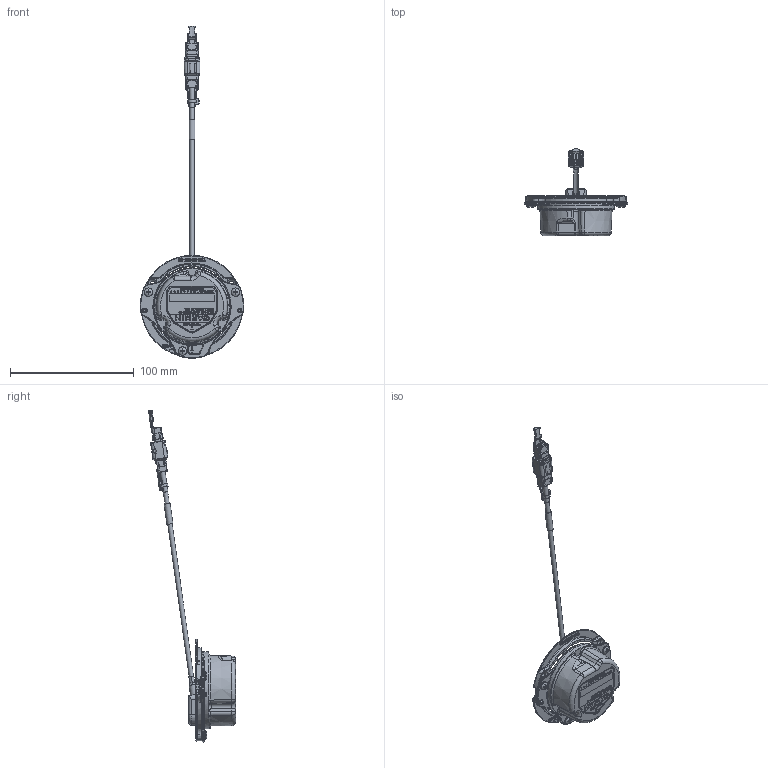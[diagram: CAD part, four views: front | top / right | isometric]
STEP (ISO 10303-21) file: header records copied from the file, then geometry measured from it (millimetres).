
FILE_DESCRIPTION (( 'STEP AP203' ), '1' );
FILE_NAME ('GMU44B_011-04201-00_R[125-00437-00]_C[011-04205-00]_below_rack_rev4.STEP', '2018-08-07T16:44:51', ( 'Garmin' ), ( 'Garmin' ), 'SwSTEP 2.0', 'SolidWorks 2016', '' );
FILE_SCHEMA (( 'CONFIG_CONTROL_DESIGN' ));
Length unit declared in the file: inch
Products named in the file (1): GMU44B_011-04201-00_R[125-00437-00]_C[011-04205-00]_below_rack_rev4
Bounding box: 83.73 x 70.47 x 268.73 mm (x, y, z)
Volume: 92646.9 mm3; surface area: 26742.7 mm2
Topology: 7 solids, 7 shells, 4625 faces, 11942 edges, 7543 vertices
Faces by surface type: plane 2038, bspline 1274, cylinder 588, torus 466, cone 212, sphere 47
Full cylindrical faces by diameter (mm): 0.775 x6, 0.954 x6, 1.55 x8, 1.654 x6, 2.261 x3, 2.705 x4, 3.505 x3, 3.556 x2, 3.962 x1, 4.826 x1, 5.588 x1, 6.858 x3, 62.341 x1
Entity records: 199112 total; most frequent: CARTESIAN_POINT 95835, ORIENTED_EDGE 23404, DIRECTION 17792, EDGE_CURVE 11702, VERTEX_POINT 7494, LINE 6444, VECTOR 6444, AXIS2_PLACEMENT_3D 5674
